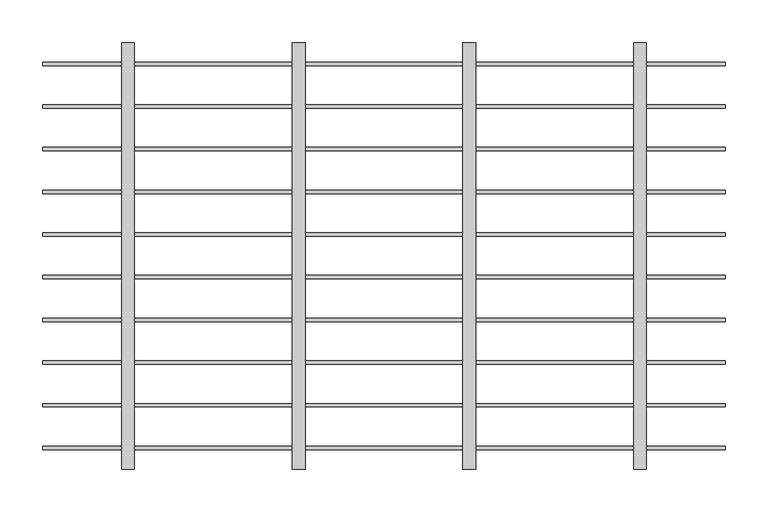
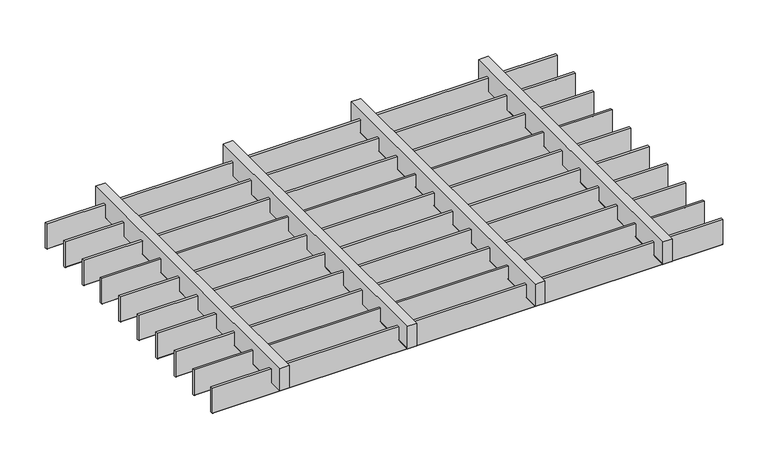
"""IFC4 building model written with IfcOpenShell, lengths in millimetres: proxy geometry, durlum_STARLAM_panel : durlum_STARLAM_4_corner_cut."""

from ifc_helpers import new_model, si_unit, point, frame, frame_2d, origin, place, context, project, spatial, polyline, circle_curve, trimmed, segment, composite_curve, outline, extrude, source, transform, mapped, element, save


def generic_models_5ffb89bc(model_context):
    return source(origin(), model_context, "Body", "SweptSolid", [
        extrude(outline(composite_curve([segment(polyline([(-177.0, 42.0), (-173.0, 42.0), (-173.0, 0.5)]), True, "CONTINUOUS"), segment(trimmed(circle_curve(frame_2d((-173.5, 0.5)), 0.5), [point((-173.0, 0.5))], [point((-173.5, 0.0))], False, "CARTESIAN"), True, "CONTINUOUS"), segment(polyline([(-173.5, 0.0), (-176.5, 0.0)]), True, "CONTINUOUS"), segment(trimmed(circle_curve(frame_2d((-176.5, 0.5)), 0.5), [point((-176.5, 0.0))], [point((-177.0, 0.5))], False, "CARTESIAN"), True, "CONTINUOUS"), segment(polyline([(-177.0, 0.5), (-177.0, 42.0)]), True, "CONTINUOUS")], self_intersect=False)), frame((-399.875, 0.0, 0.0), z_axis=(1.0, 0.0, 0.0), x_axis=(0.0, 1.0, 0.0)), (0.0, 0.0, 1.0), 799.75),
        extrude(outline(composite_curve([segment(polyline([(-127.0, 42.0), (-123.0, 42.0), (-123.0, 0.5)]), True, "CONTINUOUS"), segment(trimmed(circle_curve(frame_2d((-123.5, 0.5)), 0.5), [point((-123.0, 0.5))], [point((-123.5, 0.0))], False, "CARTESIAN"), True, "CONTINUOUS"), segment(polyline([(-123.5, 0.0), (-126.5, 0.0)]), True, "CONTINUOUS"), segment(trimmed(circle_curve(frame_2d((-126.5, 0.5)), 0.5), [point((-126.5, 0.0))], [point((-127.0, 0.5))], False, "CARTESIAN"), True, "CONTINUOUS"), segment(polyline([(-127.0, 0.5), (-127.0, 42.0)]), True, "CONTINUOUS")], self_intersect=False)), frame((-399.875, 0.0, 0.0), z_axis=(1.0, 0.0, 0.0), x_axis=(0.0, 1.0, 0.0)), (0.0, 0.0, 1.0), 799.75),
        extrude(outline(composite_curve([segment(polyline([(56.0, 107.5), (56.0, 92.5), (19.5, 92.5)]), True, "CONTINUOUS"), segment(trimmed(circle_curve(frame_2d((19.5, 93.0)), 0.5), [point((19.5, 92.5))], [point((19.0, 93.0))], False, "CARTESIAN"), True, "CONTINUOUS"), segment(polyline([(19.0, 93.0), (19.0, 107.0)]), True, "CONTINUOUS"), segment(trimmed(circle_curve(frame_2d((19.5, 107.0)), 0.5), [point((19.0, 107.0))], [point((19.5, 107.5))], False, "CARTESIAN"), True, "CONTINUOUS"), segment(polyline([(19.5, 107.5), (56.0, 107.5)]), True, "CONTINUOUS")], self_intersect=False)), frame((0.0, -249.75, 0.0), z_axis=(0.0, 1.0, 0.0), x_axis=(0.0, 0.0, 1.0)), (0.0, 0.0, 1.0), 499.5),
        extrude(outline(composite_curve([segment(polyline([(56.0, -92.5), (56.0, -107.5), (19.5, -107.5)]), True, "CONTINUOUS"), segment(trimmed(circle_curve(frame_2d((19.5, -107.0)), 0.5), [point((19.5, -107.5))], [point((19.0, -107.0))], False, "CARTESIAN"), True, "CONTINUOUS"), segment(polyline([(19.0, -107.0), (19.0, -93.0)]), True, "CONTINUOUS"), segment(trimmed(circle_curve(frame_2d((19.5, -93.0)), 0.5), [point((19.0, -93.0))], [point((19.5, -92.5))], False, "CARTESIAN"), True, "CONTINUOUS"), segment(polyline([(19.5, -92.5), (56.0, -92.5)]), True, "CONTINUOUS")], self_intersect=False)), frame((0.0, -249.75, 0.0), z_axis=(0.0, 1.0, 0.0), x_axis=(0.0, 0.0, 1.0)), (0.0, 0.0, 1.0), 499.5),
        extrude(outline(composite_curve([segment(polyline([(-77.0, 42.0), (-73.0, 42.0), (-73.0, 0.5)]), True, "CONTINUOUS"), segment(trimmed(circle_curve(frame_2d((-73.5, 0.5)), 0.5), [point((-73.0, 0.5))], [point((-73.5, 0.0))], False, "CARTESIAN"), True, "CONTINUOUS"), segment(polyline([(-73.5, 0.0), (-76.5, 0.0)]), True, "CONTINUOUS"), segment(trimmed(circle_curve(frame_2d((-76.5, 0.5)), 0.5), [point((-76.5, 0.0))], [point((-77.0, 0.5))], False, "CARTESIAN"), True, "CONTINUOUS"), segment(polyline([(-77.0, 0.5), (-77.0, 42.0)]), True, "CONTINUOUS")], self_intersect=False)), frame((-399.875, 0.0, 0.0), z_axis=(1.0, 0.0, 0.0), x_axis=(0.0, 1.0, 0.0)), (0.0, 0.0, 1.0), 799.75),
        extrude(outline(composite_curve([segment(polyline([(-27.0, 42.0), (-23.0, 42.0), (-23.0, 0.5)]), True, "CONTINUOUS"), segment(trimmed(circle_curve(frame_2d((-23.5, 0.5)), 0.5), [point((-23.0, 0.5))], [point((-23.5, 0.0))], False, "CARTESIAN"), True, "CONTINUOUS"), segment(polyline([(-23.5, 0.0), (-26.5, 0.0)]), True, "CONTINUOUS"), segment(trimmed(circle_curve(frame_2d((-26.5, 0.5)), 0.5), [point((-26.5, 0.0))], [point((-27.0, 0.5))], False, "CARTESIAN"), True, "CONTINUOUS"), segment(polyline([(-27.0, 0.5), (-27.0, 42.0)]), True, "CONTINUOUS")], self_intersect=False)), frame((-399.875, 0.0, 0.0), z_axis=(1.0, 0.0, 0.0), x_axis=(0.0, 1.0, 0.0)), (0.0, 0.0, 1.0), 799.75),
        extrude(outline(composite_curve([segment(polyline([(23.0, 42.0), (27.0, 42.0), (27.0, 0.5)]), True, "CONTINUOUS"), segment(trimmed(circle_curve(frame_2d((26.5, 0.5)), 0.5), [point((27.0, 0.5))], [point((26.5, 0.0))], False, "CARTESIAN"), True, "CONTINUOUS"), segment(polyline([(26.5, 0.0), (23.5, 0.0)]), True, "CONTINUOUS"), segment(trimmed(circle_curve(frame_2d((23.5, 0.5)), 0.5), [point((23.5, 0.0))], [point((23.0, 0.5))], False, "CARTESIAN"), True, "CONTINUOUS"), segment(polyline([(23.0, 0.5), (23.0, 42.0)]), True, "CONTINUOUS")], self_intersect=False)), frame((-399.875, 0.0, 0.0), z_axis=(1.0, 0.0, 0.0), x_axis=(0.0, 1.0, 0.0)), (0.0, 0.0, 1.0), 799.75),
        extrude(outline(composite_curve([segment(polyline([(73.0, 42.0), (77.0, 42.0), (77.0, 0.5)]), True, "CONTINUOUS"), segment(trimmed(circle_curve(frame_2d((76.5, 0.5)), 0.5), [point((77.0, 0.5))], [point((76.5, 0.0))], False, "CARTESIAN"), True, "CONTINUOUS"), segment(polyline([(76.5, 0.0), (73.5, 0.0)]), True, "CONTINUOUS"), segment(trimmed(circle_curve(frame_2d((73.5, 0.5)), 0.5), [point((73.5, 0.0))], [point((73.0, 0.5))], False, "CARTESIAN"), True, "CONTINUOUS"), segment(polyline([(73.0, 0.5), (73.0, 42.0)]), True, "CONTINUOUS")], self_intersect=False)), frame((-399.875, 0.0, 0.0), z_axis=(1.0, 0.0, 0.0), x_axis=(0.0, 1.0, 0.0)), (0.0, 0.0, 1.0), 799.75),
        extrude(outline(composite_curve([segment(polyline([(123.0, 42.0), (127.0, 42.0), (127.0, 0.5)]), True, "CONTINUOUS"), segment(trimmed(circle_curve(frame_2d((126.5, 0.5)), 0.5), [point((127.0, 0.5))], [point((126.5, 0.0))], False, "CARTESIAN"), True, "CONTINUOUS"), segment(polyline([(126.5, 0.0), (123.5, 0.0)]), True, "CONTINUOUS"), segment(trimmed(circle_curve(frame_2d((123.5, 0.5)), 0.5), [point((123.5, 0.0))], [point((123.0, 0.5))], False, "CARTESIAN"), True, "CONTINUOUS"), segment(polyline([(123.0, 0.5), (123.0, 42.0)]), True, "CONTINUOUS")], self_intersect=False)), frame((-399.875, 0.0, 0.0), z_axis=(1.0, 0.0, 0.0), x_axis=(0.0, 1.0, 0.0)), (0.0, 0.0, 1.0), 799.75),
        extrude(outline(composite_curve([segment(polyline([(173.0, 42.0), (177.0, 42.0), (177.0, 0.5)]), True, "CONTINUOUS"), segment(trimmed(circle_curve(frame_2d((176.5, 0.5)), 0.5), [point((177.0, 0.5))], [point((176.5, 0.0))], False, "CARTESIAN"), True, "CONTINUOUS"), segment(polyline([(176.5, 0.0), (173.5, 0.0)]), True, "CONTINUOUS"), segment(trimmed(circle_curve(frame_2d((173.5, 0.5)), 0.5), [point((173.5, 0.0))], [point((173.0, 0.5))], False, "CARTESIAN"), True, "CONTINUOUS"), segment(polyline([(173.0, 0.5), (173.0, 42.0)]), True, "CONTINUOUS")], self_intersect=False)), frame((-399.875, 0.0, 0.0), z_axis=(1.0, 0.0, 0.0), x_axis=(0.0, 1.0, 0.0)), (0.0, 0.0, 1.0), 799.75),
        extrude(outline(composite_curve([segment(polyline([(56.0, 307.5), (56.0, 292.5), (19.5, 292.5)]), True, "CONTINUOUS"), segment(trimmed(circle_curve(frame_2d((19.5, 293.0)), 0.5), [point((19.5, 292.5))], [point((19.0, 293.0))], False, "CARTESIAN"), True, "CONTINUOUS"), segment(polyline([(19.0, 293.0), (19.0, 307.0)]), True, "CONTINUOUS"), segment(trimmed(circle_curve(frame_2d((19.5, 307.0)), 0.5), [point((19.0, 307.0))], [point((19.5, 307.5))], False, "CARTESIAN"), True, "CONTINUOUS"), segment(polyline([(19.5, 307.5), (56.0, 307.5)]), True, "CONTINUOUS")], self_intersect=False)), frame((0.0, -249.75, 0.0), z_axis=(0.0, 1.0, 0.0), x_axis=(0.0, 0.0, 1.0)), (0.0, 0.0, 1.0), 499.5),
        extrude(outline(composite_curve([segment(polyline([(56.0, -292.5), (56.0, -307.5), (19.5, -307.5)]), True, "CONTINUOUS"), segment(trimmed(circle_curve(frame_2d((19.5, -307.0)), 0.5), [point((19.5, -307.5))], [point((19.0, -307.0))], False, "CARTESIAN"), True, "CONTINUOUS"), segment(polyline([(19.0, -307.0), (19.0, -293.0)]), True, "CONTINUOUS"), segment(trimmed(circle_curve(frame_2d((19.5, -293.0)), 0.5), [point((19.0, -293.0))], [point((19.5, -292.5))], False, "CARTESIAN"), True, "CONTINUOUS"), segment(polyline([(19.5, -292.5), (56.0, -292.5)]), True, "CONTINUOUS")], self_intersect=False)), frame((0.0, -249.75, 0.0), z_axis=(0.0, 1.0, 0.0), x_axis=(0.0, 0.0, 1.0)), (0.0, 0.0, 1.0), 499.5),
        extrude(outline(composite_curve([segment(polyline([(-227.0, 42.0), (-223.0, 42.0), (-223.0, 0.5)]), True, "CONTINUOUS"), segment(trimmed(circle_curve(frame_2d((-223.5, 0.5)), 0.5), [point((-223.0, 0.5))], [point((-223.5, 0.0))], False, "CARTESIAN"), True, "CONTINUOUS"), segment(polyline([(-223.5, 0.0), (-226.5, 0.0)]), True, "CONTINUOUS"), segment(trimmed(circle_curve(frame_2d((-226.5, 0.5)), 0.5), [point((-226.5, 0.0))], [point((-227.0, 0.5))], False, "CARTESIAN"), True, "CONTINUOUS"), segment(polyline([(-227.0, 0.5), (-227.0, 42.0)]), True, "CONTINUOUS")], self_intersect=False)), frame((-399.875, 0.0, 0.0), z_axis=(1.0, 0.0, 0.0), x_axis=(0.0, 1.0, 0.0)), (0.0, 0.0, 1.0), 799.75),
        extrude(outline(composite_curve([segment(polyline([(223.0, 42.0), (227.0, 42.0), (227.0, 0.5)]), True, "CONTINUOUS"), segment(trimmed(circle_curve(frame_2d((226.5, 0.5)), 0.5), [point((227.0, 0.5))], [point((226.5, 0.0))], False, "CARTESIAN"), True, "CONTINUOUS"), segment(polyline([(226.5, 0.0), (223.5, 0.0)]), True, "CONTINUOUS"), segment(trimmed(circle_curve(frame_2d((223.5, 0.5)), 0.5), [point((223.5, 0.0))], [point((223.0, 0.5))], False, "CARTESIAN"), True, "CONTINUOUS"), segment(polyline([(223.0, 0.5), (223.0, 42.0)]), True, "CONTINUOUS")], self_intersect=False)), frame((-399.875, 0.0, 0.0), z_axis=(1.0, 0.0, 0.0), x_axis=(0.0, 1.0, 0.0)), (0.0, 0.0, 1.0), 799.75),
    ])


if __name__ == "__main__":
    model = new_model("IFC4")
    model_context = context("Model", 3, world=origin())
    ifc_project = project(units=[si_unit("LENGTHUNIT", "METRE", prefix="MILLI")], contexts=[model_context])
    site = spatial("IfcSite", under=ifc_project)
    building = spatial("IfcBuilding", under=site)
    placement = place(None, origin())
    generic_models_shape = generic_models_5ffb89bc(model_context)
    element("IfcBuildingElementProxy", 1, Name="durlum_STARLAM_panel : durlum_STARLAM_4_corner_cut", ObjectType="durlum_STARLAM_panel : durlum_STARLAM_4_corner_cut", at=placement, inside=building, context=model_context, shape_type="MappedRepresentation", body=[
        mapped(generic_models_shape, transform((0.0, 0.0, 0.0), x_axis=(1.0, 0.0, 0.0), y_axis=(0.0, 1.0, 0.0), z_axis=(0.0, 0.0, 1.0))),
    ])
    save(model, "model.ifc")
